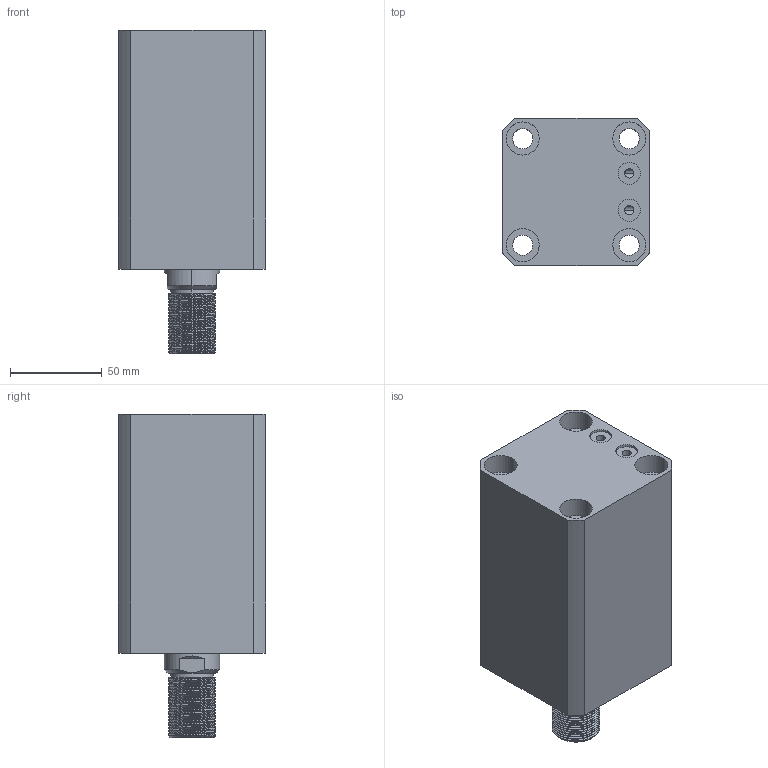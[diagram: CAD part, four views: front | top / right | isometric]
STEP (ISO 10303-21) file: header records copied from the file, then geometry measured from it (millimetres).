
FILE_DESCRIPTION (( 'STEP AP203' ), '1' );
FILE_NAME ('CHTB-SDMB50-70W.STEP', '2018-05-19T06:35:32', ( '' ), ( '' ), 'SwSTEP 2.0', 'SolidWorks 2015', '' );
FILE_SCHEMA (( 'CONFIG_CONTROL_DESIGN' ));
Length unit declared in the file: millimetre
Products named in the file (5): 掛极SDMB50-70W; 活塞杆SDMB50-70W; CHTB-SDMB50-70W; CHTM-SDMA50QG; M6
Assembly tree (5 placements, depth 2):
  CHTB-SDMB50-70W
    掛极SDMB50-70W
    活塞杆SDMB50-70W
    CHTM-SDMA50QG
    M6  x2
Bounding box: 80 x 80 x 176 mm (x, y, z)
Volume: 699477.7 mm3; surface area: 129814.7 mm2
Topology: 5 solids, 5 shells, 305 faces, 821 edges, 547 vertices
Faces by surface type: cylinder 175, plane 57, cone 29, bspline 28, torus 16
Entity records: 17763 total; most frequent: CARTESIAN_POINT 11022, ORIENTED_EDGE 1448, DIRECTION 1131, EDGE_CURVE 724, VERTEX_POINT 486, AXIS2_PLACEMENT_3D 455, EDGE_LOOP 312, FACE_OUTER_BOUND 270
